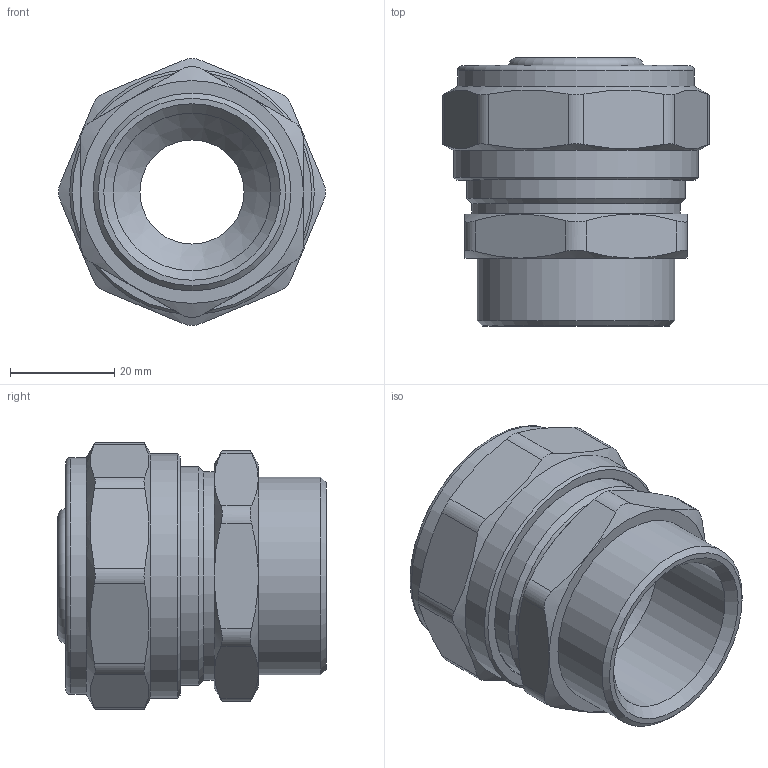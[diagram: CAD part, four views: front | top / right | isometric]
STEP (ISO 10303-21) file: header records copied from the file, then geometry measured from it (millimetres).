
FILE_DESCRIPTION(('STEP AP203'), '1');
FILE_NAME('VTm.302.N.003206', '', ('UNSPECIFIED'), ('UNSPECIFIED'), 'C3D Converter', 'C3D Toolkit', '');
FILE_SCHEMA(('CONFIG_CONTROL_DESIGN'));
Length unit declared in the file: millimetre
Products named in the file (1): ВР.302634.066.000 СБ
Bounding box: 51.3 x 51.5 x 51.3 mm (x, y, z)
Volume: 42072.5 mm3; surface area: 22692.3 mm2
Topology: 1 solids, 1 shells, 329 faces, 883 edges, 579 vertices
Faces by surface type: extrusion 129, plane 101, cylinder 45, torus 29, cone 25
Full cylindrical faces by diameter (mm): 20 x1, 22.8 x4, 25.8 x5, 26 x1, 30.292 x1, 32.1 x1, 32.2 x1, 32.7 x1, 38 x1, 40 x1, 40.376 x1, 42 x1, 45.5 x1, 47 x1
Entity records: 12922 total; most frequent: CARTESIAN_POINT 5531, ORIENTED_EDGE 1666, DIRECTION 1092, EDGE_CURVE 833, VERTEX_POINT 578, B_SPLINE_CURVE_WITH_KNOTS 493, VECTOR 464, EDGE_LOOP 401
